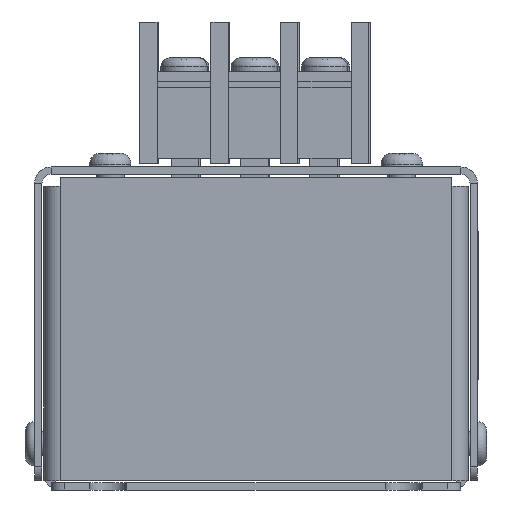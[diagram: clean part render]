
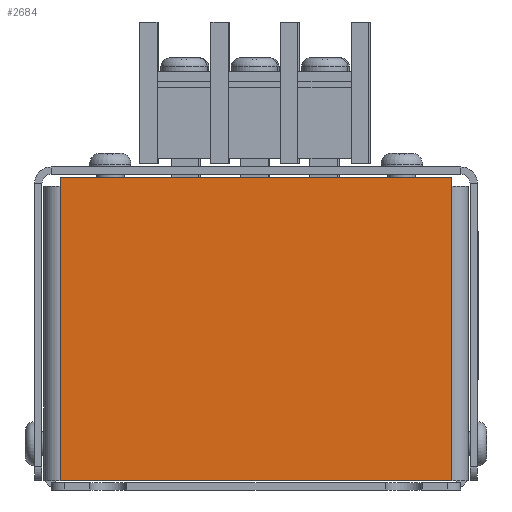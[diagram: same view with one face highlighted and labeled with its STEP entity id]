
A CAD part, front view. The second image highlights one B-rep face of the part: STEP entity #2684.
In plain terms, the highlighted planar face has unit normal (0, -1, 0).
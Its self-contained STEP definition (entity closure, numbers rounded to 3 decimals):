
#2684=ADVANCED_FACE('',(#42787),#42789,.F.);
#42787=FACE_BOUND('',#42788,.T.);
#42788=EDGE_LOOP('',(#76147,#76148,#76149,#76150,#76151,#76152));
#42789=PLANE('',#42790);
#42790=AXIS2_PLACEMENT_3D('',#42791,#42792,#42793);
#42791=CARTESIAN_POINT('',(-95.473,-75.,-20.473));
#42792=DIRECTION('',(0.,1.,0.));
#42793=DIRECTION('',(-1.,0.,0.));
#76147=ORIENTED_EDGE('',*,*,#102216,.T.);
#76148=ORIENTED_EDGE('',*,*,#102217,.T.);
#76149=ORIENTED_EDGE('',*,*,#102218,.F.);
#76150=ORIENTED_EDGE('',*,*,#102219,.F.);
#76151=ORIENTED_EDGE('',*,*,#102124,.T.);
#76152=ORIENTED_EDGE('',*,*,#102220,.T.);
#102124=EDGE_CURVE('',#115250,#115251,#115252,.T.);
#102216=EDGE_CURVE('',#115425,#115426,#115427,.T.);
#102217=EDGE_CURVE('',#115426,#115428,#115429,.T.);
#102218=EDGE_CURVE('',#115430,#115428,#115431,.T.);
#102219=EDGE_CURVE('',#115250,#115430,#115432,.T.);
#102220=EDGE_CURVE('',#115251,#115425,#115433,.T.);
#115250=VERTEX_POINT('',#137280);
#115251=VERTEX_POINT('',#137281);
#115252=LINE('',#137282,#137283);
#115425=VERTEX_POINT('',#137657);
#115426=VERTEX_POINT('',#137658);
#115427=LINE('',#137659,#137660);
#115428=VERTEX_POINT('',#137662);
#115429=LINE('',#137663,#137664);
#115430=VERTEX_POINT('',#137666);
#115431=LINE('',#137667,#137668);
#115432=LINE('',#137670,#137671);
#115433=LINE('',#137673,#137674);
#137280=CARTESIAN_POINT('',(-20.2,-75.,32.9));
#137281=CARTESIAN_POINT('',(-20.2,-75.,1.));
#137282=CARTESIAN_POINT('',(-20.2,-75.,32.9));
#137283=VECTOR('',#137284,1.);
#137284=DIRECTION('',(0.,0.,-1.));
#137657=CARTESIAN_POINT('',(22.197,-75.,1.));
#137658=CARTESIAN_POINT('',(22.197,-75.,32.9));
#137659=CARTESIAN_POINT('',(22.197,-75.,1.));
#137660=VECTOR('',#137661,1.);
#137661=DIRECTION('',(0.,0.,1.));
#137662=CARTESIAN_POINT('',(22.197,-75.,33.9));
#137663=CARTESIAN_POINT('',(22.197,-75.,32.9));
#137664=VECTOR('',#137665,1.);
#137665=DIRECTION('',(0.,0.,1.));
#137666=CARTESIAN_POINT('',(-20.2,-75.,33.9));
#137667=CARTESIAN_POINT('',(-20.2,-75.,33.9));
#137668=VECTOR('',#137669,1.);
#137669=DIRECTION('',(1.,0.,0.));
#137670=CARTESIAN_POINT('',(-20.2,-75.,32.9));
#137671=VECTOR('',#137672,1.);
#137672=DIRECTION('',(0.,0.,1.));
#137673=CARTESIAN_POINT('',(-20.2,-75.,1.));
#137674=VECTOR('',#137675,1.);
#137675=DIRECTION('',(1.,0.,0.));
